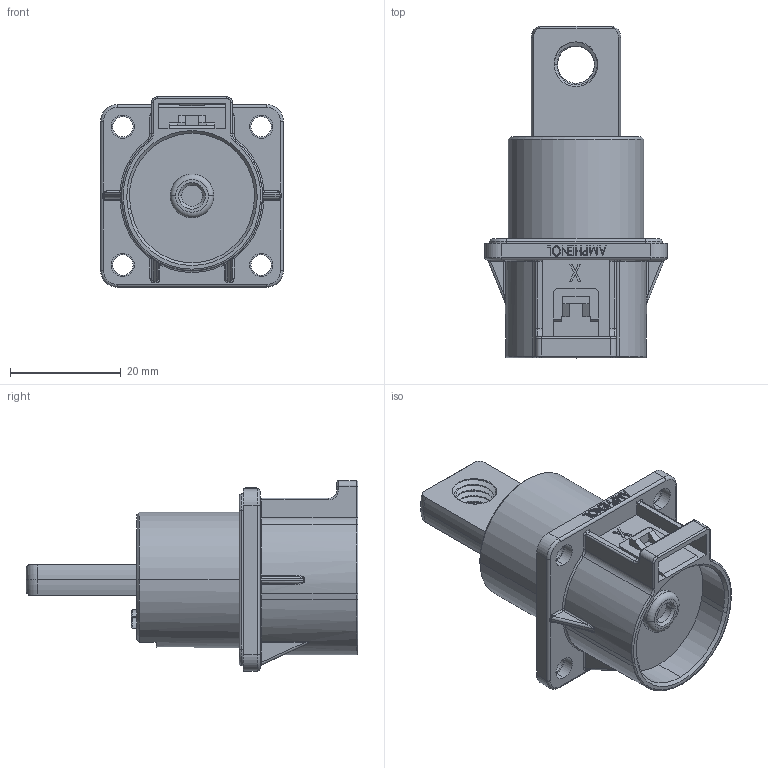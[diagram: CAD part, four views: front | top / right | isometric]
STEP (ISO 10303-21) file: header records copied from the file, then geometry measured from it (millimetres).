
FILE_DESCRIPTION (( 'STEP AP214' ), '1' );
FILE_NAME ('PL00X-201-10M8.STEP', '2018-10-23T10:38:51', ( '' ), ( '' ), 'SwSTEP 2.0', 'SolidWorks 2017', '' );
FILE_SCHEMA (( 'AUTOMOTIVE_DESIGN' ));
Length unit declared in the file: millimetre
Products named in the file (1): PL00X-201-10M8
Bounding box: 33 x 60 x 34.4 mm (x, y, z)
Volume: 20760.1 mm3; surface area: 9133 mm2
Topology: 2 solids, 2 shells, 501 faces, 1241 edges, 762 vertices
Faces by surface type: plane 209, cylinder 156, torus 63, bspline 41, cone 24, sphere 8
Entity records: 23086 total; most frequent: CARTESIAN_POINT 5808, ORIENTED_EDGE 2474, DIRECTION 2429, EDGE_CURVE 1237, AXIS2_PLACEMENT_3D 875, VERTEX_POINT 762, VECTOR 679, LINE 679
